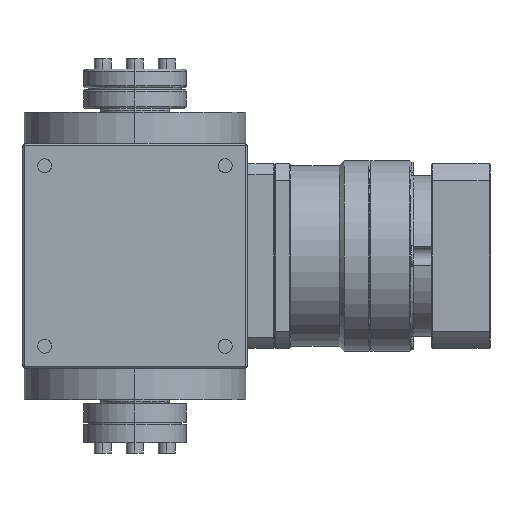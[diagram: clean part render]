
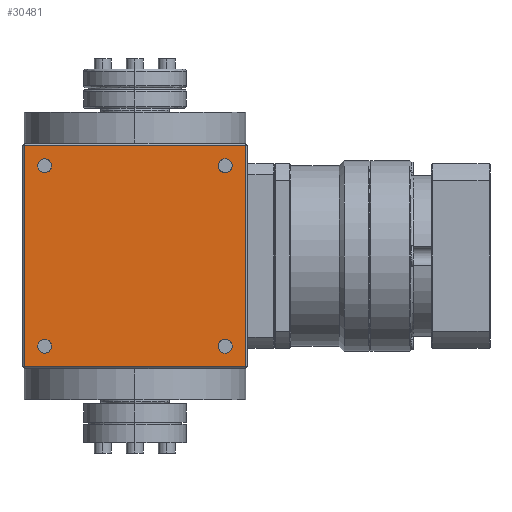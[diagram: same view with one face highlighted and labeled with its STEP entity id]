
A CAD part, left-side view. The second image highlights one B-rep face of the part: STEP entity #30481.
In plain terms, the highlighted planar face has unit normal (-1, 0, 0).
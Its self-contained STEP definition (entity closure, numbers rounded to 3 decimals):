
#719 = DIRECTION ( 'NONE',  ( 0., 0., 1. ) ) ;
#824 = EDGE_LOOP ( 'NONE', ( #32834, #2979, #40003, #22805 ) ) ;
#930 = VERTEX_POINT ( 'NONE', #15661 ) ;
#1240 = CARTESIAN_POINT ( 'NONE',  ( -55., -54., -55. ) ) ;
#1746 = FACE_BOUND ( 'NONE', #29810, .T. ) ;
#1843 = DIRECTION ( 'NONE',  ( 1., 0., 0. ) ) ;
#1958 = PLANE ( 'NONE',  #21801 ) ;
#2446 = AXIS2_PLACEMENT_3D ( 'NONE', #12265, #29867, #33217 ) ;
#2857 = EDGE_CURVE ( 'NONE', #29031, #930, #16708, .T. ) ;
#2964 = ORIENTED_EDGE ( 'NONE', *, *, #40914, .T. ) ;
#2979 = ORIENTED_EDGE ( 'NONE', *, *, #12135, .T. ) ;
#3053 = DIRECTION ( 'NONE',  ( 0., 0., 1. ) ) ;
#3214 = LINE ( 'NONE', #16849, #15504 ) ;
#3346 = DIRECTION ( 'NONE',  ( 0., 0., 1. ) ) ;
#3660 = EDGE_CURVE ( 'NONE', #26630, #8832, #34594, .T. ) ;
#4259 = DIRECTION ( 'NONE',  ( 1., 0., 0. ) ) ;
#4366 = LINE ( 'NONE', #1240, #41515 ) ;
#4385 = CARTESIAN_POINT ( 'NONE',  ( -55., 44., -44. ) ) ;
#5186 = EDGE_LOOP ( 'NONE', ( #43767, #26227 ) ) ;
#6800 = DIRECTION ( 'NONE',  ( 0., 0., -1. ) ) ;
#6929 = CARTESIAN_POINT ( 'NONE',  ( -55., -44., 44. ) ) ;
#7180 = EDGE_LOOP ( 'NONE', ( #42034, #37254 ) ) ;
#7224 = VERTEX_POINT ( 'NONE', #24186 ) ;
#8726 = LINE ( 'NONE', #8949, #25596 ) ;
#8832 = VERTEX_POINT ( 'NONE', #19776 ) ;
#8904 = DIRECTION ( 'NONE',  ( 0., -1., 0. ) ) ;
#8949 = CARTESIAN_POINT ( 'NONE',  ( -55., 55., 54. ) ) ;
#9592 = CIRCLE ( 'NONE', #2446, 3.4 ) ;
#10196 = VERTEX_POINT ( 'NONE', #25978 ) ;
#10640 = CARTESIAN_POINT ( 'NONE',  ( -55., -54., 54. ) ) ;
#10881 = DIRECTION ( 'NONE',  ( 1., 0., 0. ) ) ;
#11881 = EDGE_CURVE ( 'NONE', #7224, #23360, #13474, .T. ) ;
#12135 = EDGE_CURVE ( 'NONE', #39557, #31766, #8726, .T. ) ;
#12238 = DIRECTION ( 'NONE',  ( -1., 0., 0. ) ) ;
#12265 = CARTESIAN_POINT ( 'NONE',  ( -55., 44., -44. ) ) ;
#12621 = CARTESIAN_POINT ( 'NONE',  ( -55., -44., -40.6 ) ) ;
#12950 = CARTESIAN_POINT ( 'NONE',  ( -55., 54., 54. ) ) ;
#13375 = DIRECTION ( 'NONE',  ( 0., 0., 1. ) ) ;
#13474 = CIRCLE ( 'NONE', #34139, 3.4 ) ;
#13855 = VERTEX_POINT ( 'NONE', #12621 ) ;
#14974 = DIRECTION ( 'NONE',  ( 0., 0., 1. ) ) ;
#15093 = VECTOR ( 'NONE', #32033, 1000. ) ;
#15481 = DIRECTION ( 'NONE',  ( 0., 0., 1. ) ) ;
#15504 = VECTOR ( 'NONE', #6800, 1000. ) ;
#15661 = CARTESIAN_POINT ( 'NONE',  ( -55., 44., -47.4 ) ) ;
#16708 = CIRCLE ( 'NONE', #40211, 3.4 ) ;
#16849 = CARTESIAN_POINT ( 'NONE',  ( -55., 54., -55. ) ) ;
#16966 = EDGE_CURVE ( 'NONE', #17264, #28033, #38729, .T. ) ;
#16969 = DIRECTION ( 'NONE',  ( 1., 0., 0. ) ) ;
#17264 = VERTEX_POINT ( 'NONE', #23964 ) ;
#17401 = CARTESIAN_POINT ( 'NONE',  ( -55., -44., -44. ) ) ;
#18083 = CIRCLE ( 'NONE', #23763, 3.4 ) ;
#18153 = EDGE_CURVE ( 'NONE', #28033, #39557, #4366, .T. ) ;
#19216 = DIRECTION ( 'NONE',  ( 0., 1., 0. ) ) ;
#19776 = CARTESIAN_POINT ( 'NONE',  ( -55., -44., 47.4 ) ) ;
#19970 = AXIS2_PLACEMENT_3D ( 'NONE', #33626, #34283, #3053 ) ;
#20311 = DIRECTION ( 'NONE',  ( 1., 0., 0. ) ) ;
#21801 = AXIS2_PLACEMENT_3D ( 'NONE', #29189, #12238, #8904 ) ;
#21839 = CARTESIAN_POINT ( 'NONE',  ( -55., -54., -54. ) ) ;
#22302 = ORIENTED_EDGE ( 'NONE', *, *, #3660, .T. ) ;
#22709 = FACE_BOUND ( 'NONE', #38373, .T. ) ;
#22805 = ORIENTED_EDGE ( 'NONE', *, *, #16966, .T. ) ;
#22923 = FACE_OUTER_BOUND ( 'NONE', #824, .T. ) ;
#23196 = CIRCLE ( 'NONE', #41000, 3.4 ) ;
#23360 = VERTEX_POINT ( 'NONE', #27101 ) ;
#23763 = AXIS2_PLACEMENT_3D ( 'NONE', #30630, #33776, #719 ) ;
#23964 = CARTESIAN_POINT ( 'NONE',  ( -55., 54., -54. ) ) ;
#24186 = CARTESIAN_POINT ( 'NONE',  ( -55., 44., 47.4 ) ) ;
#24496 = DIRECTION ( 'NONE',  ( 0., 0., 1. ) ) ;
#25344 = CARTESIAN_POINT ( 'NONE',  ( -55., -44., 40.6 ) ) ;
#25596 = VECTOR ( 'NONE', #19216, 1000. ) ;
#25978 = CARTESIAN_POINT ( 'NONE',  ( -55., -44., -47.4 ) ) ;
#26070 = FACE_BOUND ( 'NONE', #7180, .T. ) ;
#26227 = ORIENTED_EDGE ( 'NONE', *, *, #37724, .T. ) ;
#26630 = VERTEX_POINT ( 'NONE', #25344 ) ;
#26727 = CARTESIAN_POINT ( 'NONE',  ( -55., 44., -40.6 ) ) ;
#26972 = ORIENTED_EDGE ( 'NONE', *, *, #42047, .T. ) ;
#27101 = CARTESIAN_POINT ( 'NONE',  ( -55., 44., 40.6 ) ) ;
#28033 = VERTEX_POINT ( 'NONE', #21839 ) ;
#29031 = VERTEX_POINT ( 'NONE', #26727 ) ;
#29189 = CARTESIAN_POINT ( 'NONE',  ( -55., 55., -55. ) ) ;
#29810 = EDGE_LOOP ( 'NONE', ( #2964, #22302 ) ) ;
#29867 = DIRECTION ( 'NONE',  ( 1., 0., 0. ) ) ;
#30117 = EDGE_CURVE ( 'NONE', #13855, #10196, #23196, .T. ) ;
#30481 = ADVANCED_FACE ( 'NONE', ( #22923, #1746, #22709, #35885, #26070 ), #1958, .T. ) ;
#30630 = CARTESIAN_POINT ( 'NONE',  ( -55., -44., 44. ) ) ;
#31081 = EDGE_CURVE ( 'NONE', #31766, #17264, #3214, .T. ) ;
#31130 = CARTESIAN_POINT ( 'NONE',  ( -55., 55., -54. ) ) ;
#31766 = VERTEX_POINT ( 'NONE', #12950 ) ;
#31823 = DIRECTION ( 'NONE',  ( 0., 0., 1. ) ) ;
#32033 = DIRECTION ( 'NONE',  ( 0., -1., 0. ) ) ;
#32834 = ORIENTED_EDGE ( 'NONE', *, *, #18153, .T. ) ;
#32879 = CIRCLE ( 'NONE', #38568, 3.4 ) ;
#33217 = DIRECTION ( 'NONE',  ( 0., 0., 1. ) ) ;
#33626 = CARTESIAN_POINT ( 'NONE',  ( -55., 44., 44. ) ) ;
#33776 = DIRECTION ( 'NONE',  ( 1., 0., 0. ) ) ;
#33913 = EDGE_CURVE ( 'NONE', #23360, #7224, #39210, .T. ) ;
#34139 = AXIS2_PLACEMENT_3D ( 'NONE', #35756, #1843, #15481 ) ;
#34283 = DIRECTION ( 'NONE',  ( 1., 0., 0. ) ) ;
#34594 = CIRCLE ( 'NONE', #43178, 3.4 ) ;
#34823 = CARTESIAN_POINT ( 'NONE',  ( -55., -44., -44. ) ) ;
#35756 = CARTESIAN_POINT ( 'NONE',  ( -55., 44., 44. ) ) ;
#35885 = FACE_BOUND ( 'NONE', #5186, .T. ) ;
#35945 = ORIENTED_EDGE ( 'NONE', *, *, #2857, .T. ) ;
#37254 = ORIENTED_EDGE ( 'NONE', *, *, #33913, .T. ) ;
#37724 = EDGE_CURVE ( 'NONE', #10196, #13855, #32879, .T. ) ;
#38373 = EDGE_LOOP ( 'NONE', ( #35945, #26972 ) ) ;
#38568 = AXIS2_PLACEMENT_3D ( 'NONE', #34823, #4259, #14974 ) ;
#38729 = LINE ( 'NONE', #31130, #15093 ) ;
#39210 = CIRCLE ( 'NONE', #19970, 3.4 ) ;
#39557 = VERTEX_POINT ( 'NONE', #10640 ) ;
#40003 = ORIENTED_EDGE ( 'NONE', *, *, #31081, .T. ) ;
#40211 = AXIS2_PLACEMENT_3D ( 'NONE', #4385, #10881, #24496 ) ;
#40914 = EDGE_CURVE ( 'NONE', #8832, #26630, #18083, .T. ) ;
#41000 = AXIS2_PLACEMENT_3D ( 'NONE', #17401, #20311, #13375 ) ;
#41515 = VECTOR ( 'NONE', #31823, 1000. ) ;
#42034 = ORIENTED_EDGE ( 'NONE', *, *, #11881, .T. ) ;
#42047 = EDGE_CURVE ( 'NONE', #930, #29031, #9592, .T. ) ;
#43178 = AXIS2_PLACEMENT_3D ( 'NONE', #6929, #16969, #3346 ) ;
#43767 = ORIENTED_EDGE ( 'NONE', *, *, #30117, .T. ) ;
